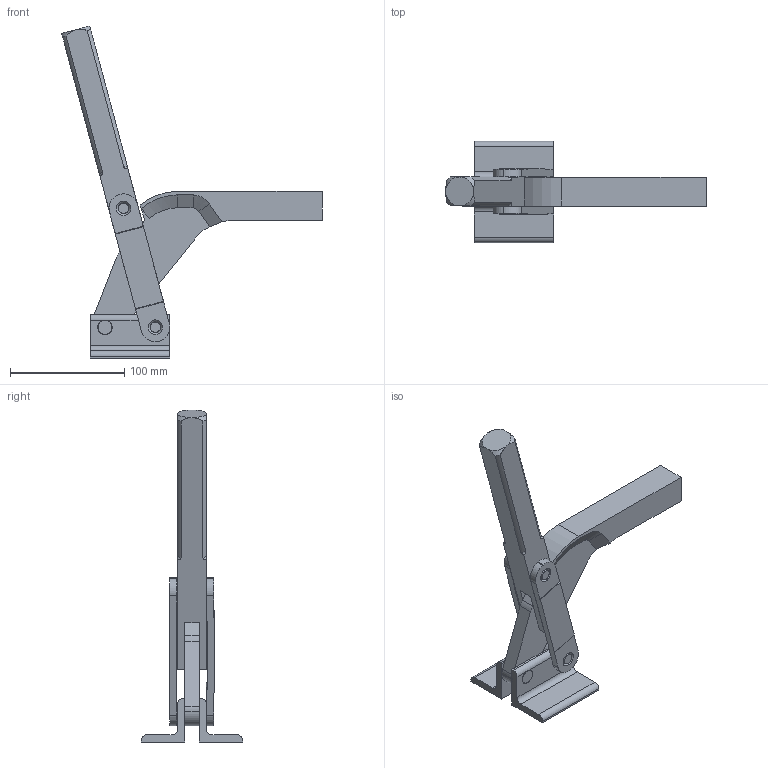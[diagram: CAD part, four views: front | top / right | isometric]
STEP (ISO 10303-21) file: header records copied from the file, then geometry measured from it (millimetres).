
FILE_DESCRIPTION( ( '' ), '1' );
FILE_NAME( 'C:\Documents and Settings\Richard Grenzke\My Documents\Wolverine Company Data\WOLVERINE CD 5_17_05\SOLIDS STEP\hold_down\c115a.stp', ' ', ( '' ), ( '' ), 'ACIS Interop R16', 'Kubotek KeyCreator V5.5.1 (0454)', ' ' );
FILE_SCHEMA( ( 'CONFIG_CONTROL_DESIGN' ) );
Length unit declared in the file: millimetre
Products named in the file (185): 1; 2; 3; 4; 5; 6; 7; 8; 9; 10; 11; 12; 13; 14; 15; 16; 17; 18; 19; 20; 21; 22; 23; 24; 25; 26; 27; 28; 29; 30; 31; 32; 33; 34; 35; 36; 37; 38; 39; 40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
Bounding box: 228.43 x 88.9 x 291.07 mm (x, y, z)
Volume: 6435.2 mm3; surface area: 98619.1 mm2
Topology: 1 solids, 184 shells, 187 faces, 898 edges, 896 vertices
Faces by surface type: plane 91, cylinder 68, cone 24, torus 4
Entity records: 18123 total; most frequent: CARTESIAN_POINT 2480, DIRECTION 1900, CC_DESIGN_PERSON_AND_ORGANIZATION_ASSIGNMENT 925, ORIENTED_EDGE 904, EDGE_CURVE 898, VERTEX_POINT 896, PERSON_AND_ORGANIZATION_ROLE 740, AXIS2_PLACEMENT_3D 688
